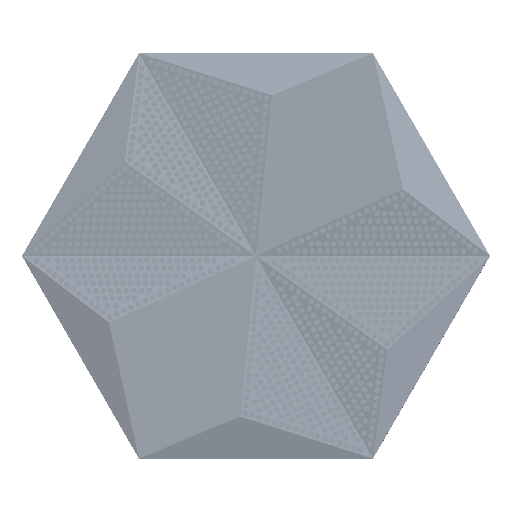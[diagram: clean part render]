
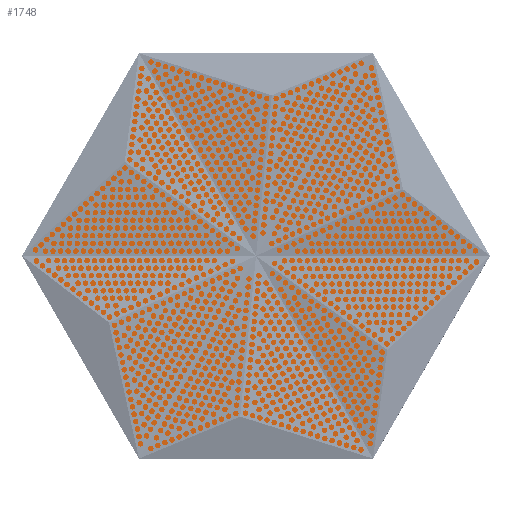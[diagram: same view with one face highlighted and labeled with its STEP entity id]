
A CAD part, top view. The second image highlights one B-rep face of the part: STEP entity #1748.
In plain terms, the highlighted planar face has unit normal (0, 0, -1).
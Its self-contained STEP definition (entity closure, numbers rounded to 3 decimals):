
#1748=ADVANCED_FACE('',(#1773),#10680,.T.);
#1773=FACE_OUTER_BOUND('',#1798,.T.);
#1798=EDGE_LOOP('',(#3557,#3558,#3559,#3560,#3561,#3562));
#3557=ORIENTED_EDGE('',*,*,#5380,.F.);
#3558=ORIENTED_EDGE('',*,*,#5378,.F.);
#3559=ORIENTED_EDGE('',*,*,#5376,.F.);
#3560=ORIENTED_EDGE('',*,*,#5375,.F.);
#3561=ORIENTED_EDGE('',*,*,#5377,.F.);
#3562=ORIENTED_EDGE('',*,*,#5379,.F.);
#5375=EDGE_CURVE('',#8927,#8928,#8885,.T.);
#5376=EDGE_CURVE('',#8928,#8929,#8886,.T.);
#5377=EDGE_CURVE('',#8930,#8927,#8887,.T.);
#5378=EDGE_CURVE('',#8929,#8931,#8888,.T.);
#5379=EDGE_CURVE('',#8932,#8930,#8889,.T.);
#5380=EDGE_CURVE('',#8931,#8932,#8890,.T.);
#8885=B_SPLINE_CURVE_WITH_KNOTS('',1,(#12627,#12628),.UNSPECIFIED.,.F.,
 .F.,(2,2),(-1000.,-750.),.UNSPECIFIED.);
#8886=B_SPLINE_CURVE_WITH_KNOTS('',1,(#12629,#12630),.UNSPECIFIED.,.F.,
 .F.,(2,2),(-750.,-500.),.UNSPECIFIED.);
#8887=B_SPLINE_CURVE_WITH_KNOTS('',1,(#12631,#12632),.UNSPECIFIED.,.F.,
 .F.,(2,2),(-1250.,-1000.),.UNSPECIFIED.);
#8888=B_SPLINE_CURVE_WITH_KNOTS('',1,(#12633,#12634),.UNSPECIFIED.,.F.,
 .F.,(2,2),(-500.,-250.),.UNSPECIFIED.);
#8889=B_SPLINE_CURVE_WITH_KNOTS('',1,(#12635,#12636),.UNSPECIFIED.,.F.,
 .F.,(2,2),(-1500.,-1250.),.UNSPECIFIED.);
#8890=B_SPLINE_CURVE_WITH_KNOTS('',1,(#12637,#12638),.UNSPECIFIED.,.F.,
 .F.,(2,2),(-250.,0.),.UNSPECIFIED.);
#8927=VERTEX_POINT('',#10874);
#8928=VERTEX_POINT('',#10875);
#8929=VERTEX_POINT('',#10876);
#8930=VERTEX_POINT('',#10877);
#8931=VERTEX_POINT('',#10878);
#8932=VERTEX_POINT('',#10879);
#10680=PLANE('',#10793);
#10793=AXIS2_PLACEMENT_3D('',#10849,#10821,$);
#10821=DIRECTION('',(0.,0.,-1.));
#10849=CARTESIAN_POINT('',(425.,476.314,0.));
#10874=CARTESIAN_POINT('',(0.,0.,0.));
#10875=CARTESIAN_POINT('',(250.,0.,0.));
#10876=CARTESIAN_POINT('',(375.,216.506,0.));
#10877=CARTESIAN_POINT('',(-125.,216.506,0.));
#10878=CARTESIAN_POINT('',(250.,433.013,0.));
#10879=CARTESIAN_POINT('',(0.,433.013,0.));
#12627=CARTESIAN_POINT('',(0.,0.,0.));
#12628=CARTESIAN_POINT('',(250.,0.,0.));
#12629=CARTESIAN_POINT('',(250.,0.,0.));
#12630=CARTESIAN_POINT('',(375.,216.506,0.));
#12631=CARTESIAN_POINT('',(-125.,216.506,0.));
#12632=CARTESIAN_POINT('',(0.,0.,0.));
#12633=CARTESIAN_POINT('',(375.,216.506,0.));
#12634=CARTESIAN_POINT('',(250.,433.013,0.));
#12635=CARTESIAN_POINT('',(0.,433.013,0.));
#12636=CARTESIAN_POINT('',(-125.,216.506,0.));
#12637=CARTESIAN_POINT('',(250.,433.013,0.));
#12638=CARTESIAN_POINT('',(0.,433.013,0.));
